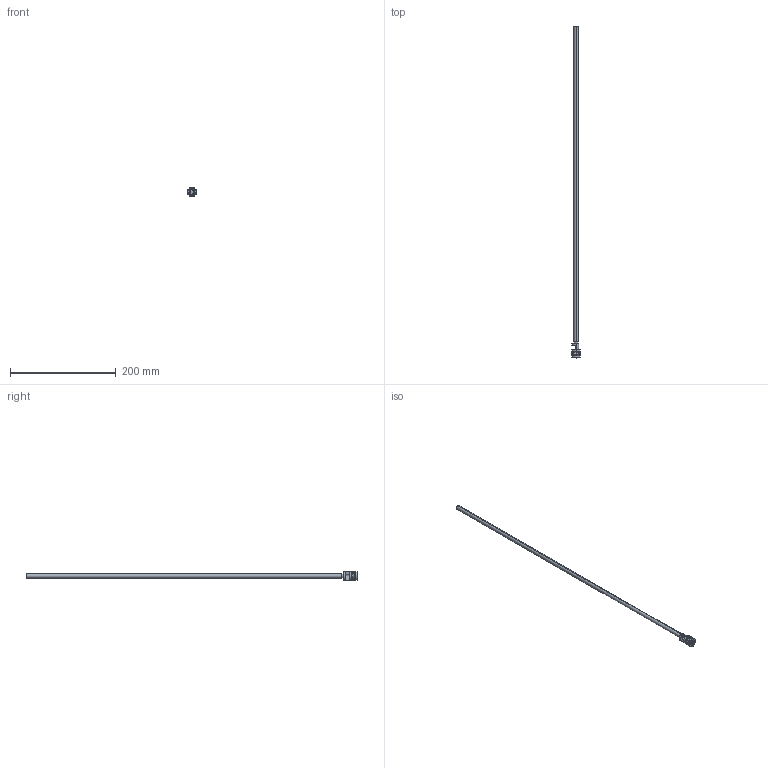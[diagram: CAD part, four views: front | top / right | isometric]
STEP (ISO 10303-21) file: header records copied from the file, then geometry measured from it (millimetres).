
FILE_DESCRIPTION (( 'STEP AP203' ), '1' );
FILE_NAME ('RF-16Fx600.STEP', '2015-11-24T10:55:04', ( 'Balzi' ), ( '' ), 'SwSTEP 2.0', 'SolidWorks 2015', '' );
FILE_SCHEMA (( 'CONFIG_CONTROL_DESIGN' ));
Length unit declared in the file: millimetre
Products named in the file (1): RF-16Fx600
Bounding box: 17.5 x 627.5 x 17.5 mm (x, y, z)
Volume: 10489.3 mm3; surface area: 30878.4 mm2
Topology: 1 solids, 1 shells, 74 faces, 170 edges, 106 vertices
Faces by surface type: cylinder 26, plane 26, cone 14, torus 8
Entity records: 2194 total; most frequent: DIRECTION 401, CARTESIAN_POINT 370, ORIENTED_EDGE 340, EDGE_CURVE 170, AXIS2_PLACEMENT_3D 161, VERTEX_POINT 106, CIRCLE 86, EDGE_LOOP 84
